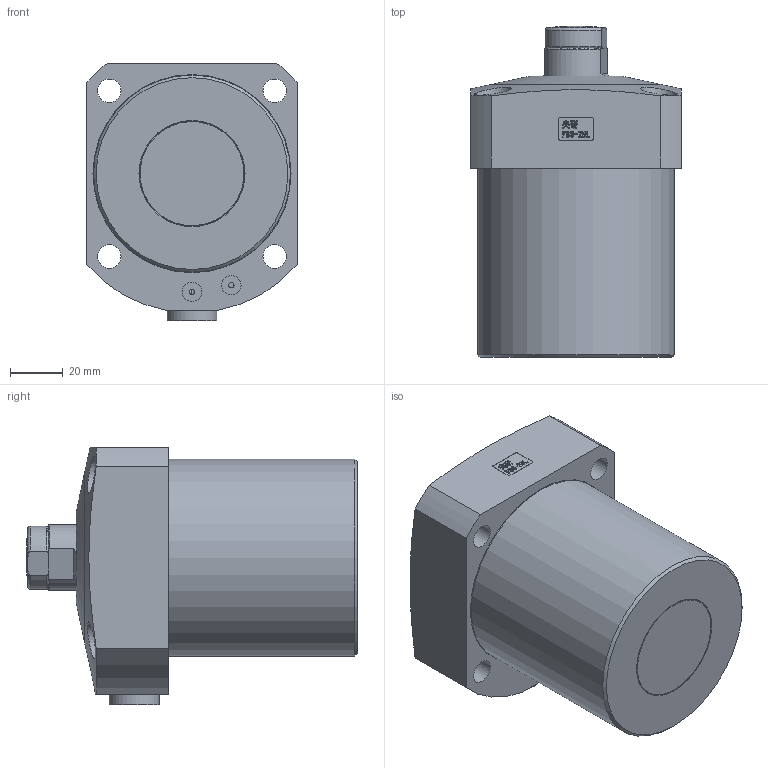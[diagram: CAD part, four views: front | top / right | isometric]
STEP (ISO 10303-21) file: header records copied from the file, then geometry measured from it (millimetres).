
FILE_DESCRIPTION(/* description */ (''),/* implementation_level */ '2;1');
FILE_NAME(/* name */ 'FSC-25L.stp',/* time_stamp */ '2022-05-04T14:03:30+08:00',/* author */ (''),/* organization */ (''),/* preprocessor_version */ 'ST-DEVELOPER v16.7',/* originating_system */ 'SIEMENS PLM Software NX 12.0',/* authorisation */ '');
FILE_SCHEMA (('AUTOMOTIVE_DESIGN { 1 0 10303 214 3 1 1 1 }'));
Length unit declared in the file: millimetre
Products named in the file (1): FSC-075BL
Bounding box: 80 x 125.95 x 98 mm (x, y, z)
Volume: 409996.9 mm3; surface area: 92684 mm2
Topology: 7 solids, 7 shells, 365 faces, 1014 edges, 698 vertices
Faces by surface type: plane 168, extrusion 63, cylinder 59, torus 32, cone 28, bspline 15
Full cylindrical faces by diameter (mm): 2 x2, 6 x1, 6.003 x1, 7.4 x2, 9 x5, 10 x4, 12.003 x1, 13.003 x1, 14 x5, 16.003 x1, 19 x1, 24.981 x2, 25 x2, 30 x1, 33.269 x1, 34 x1, 40 x1, 40.003 x1, 58.003 x2, 60.4 x1, 61 x1, 63 x1, 63.316 x1, 65 x1, 65.003 x1, 75 x1
Entity records: 22575 total; most frequent: CARTESIAN_POINT 13073, ORIENTED_EDGE 1800, DIRECTION 1371, EDGE_CURVE 900, VERTEX_POINT 682, EDGE_LOOP 516, VECTOR 463, AXIS2_PLACEMENT_3D 454
